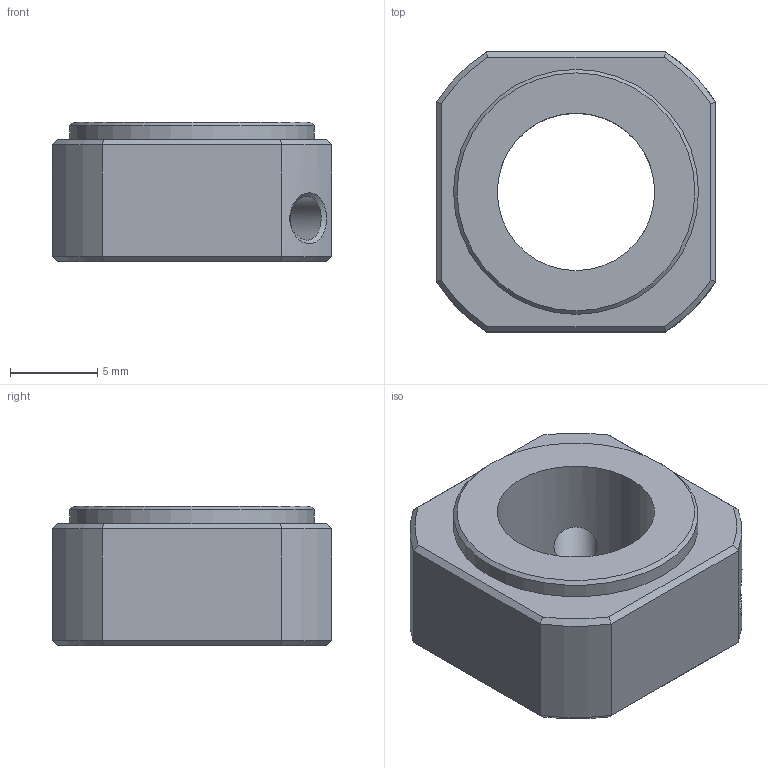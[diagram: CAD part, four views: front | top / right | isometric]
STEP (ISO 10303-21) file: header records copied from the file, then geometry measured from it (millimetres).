
FILE_DESCRIPTION(('STEP AP214'),'1');
FILE_NAME('RN10.stp','2016-09-23T12:43:43',(' '),(' '),'Spatial InterOp 3D',' ',' ');
FILE_SCHEMA(('automotive_design'));
Length unit declared in the file: millimetre
Products named in the file (1): Part42
Bounding box: 16 x 16 x 8 mm (x, y, z)
Volume: 1282.1 mm3; surface area: 1060.1 mm2
Topology: 1 solids, 1 shells, 34 faces, 75 edges, 44 vertices
Faces by surface type: plane 15, cone 9, cylinder 8, bspline 2
Full cylindrical faces by diameter (mm): 2.5 x2, 9 x1, 14 x1
Entity records: 1400 total; most frequent: CARTESIAN_POINT 423, ORIENTED_EDGE 134, DIRECTION 132, EDGE_CURVE 67, AXIS2_PLACEMENT_3D 54, EDGE_LOOP 48, VERTEX_POINT 43, FACE_OUTER_BOUND 40
